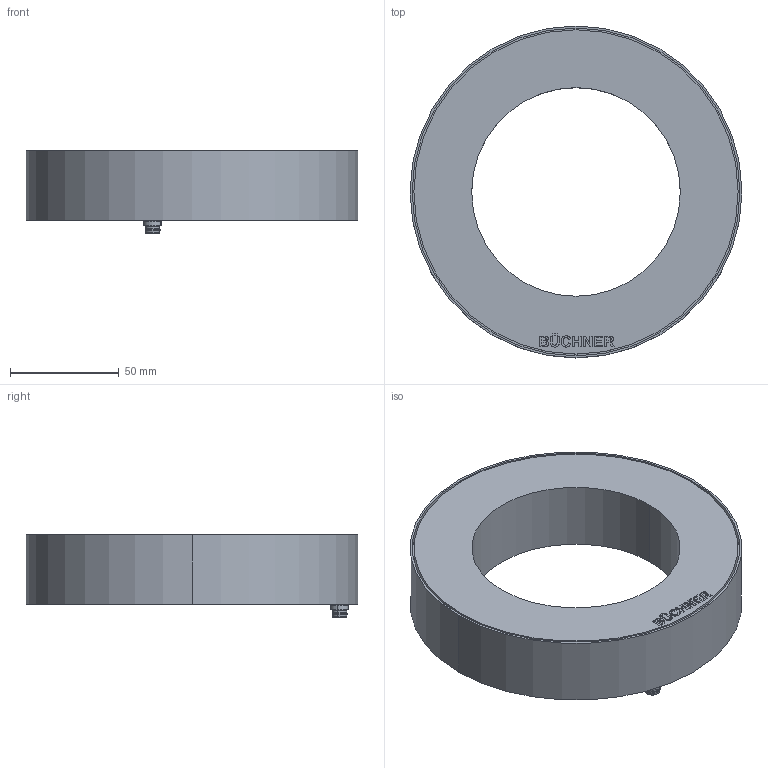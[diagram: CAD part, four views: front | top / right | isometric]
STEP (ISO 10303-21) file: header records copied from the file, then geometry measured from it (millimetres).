
FILE_DESCRIPTION(('STEP AP214'),'1');
FILE_NAME('Helios-150 Kundenmodell.stp','2020-05-08T08:09:31',(' '),(' '),'Spatial InterOp 3D',' ',' ');
FILE_SCHEMA(('AUTOMOTIVE_DESIGN { 1 0 10303 214 1 1 1 1 }'));
Length unit declared in the file: metre
Products named in the file (1): Volumenkörper
Bounding box: 152.9 x 152.9 x 37.94 mm (x, y, z)
Volume: 157735.8 mm3; surface area: 124354.8 mm2
Topology: 1 solids, 1 shells, 541 faces, 1371 edges, 775 vertices
Faces by surface type: cylinder 235, cone 160, plane 108, extrusion 20, sphere 16, torus 2
Entity records: 17757 total; most frequent: CARTESIAN_POINT 3790, DIRECTION 2740, ORIENTED_EDGE 2438, EDGE_CURVE 1219, AXIS2_PLACEMENT_3D 1043, VERTEX_POINT 775, VECTOR 654, EDGE_LOOP 646
